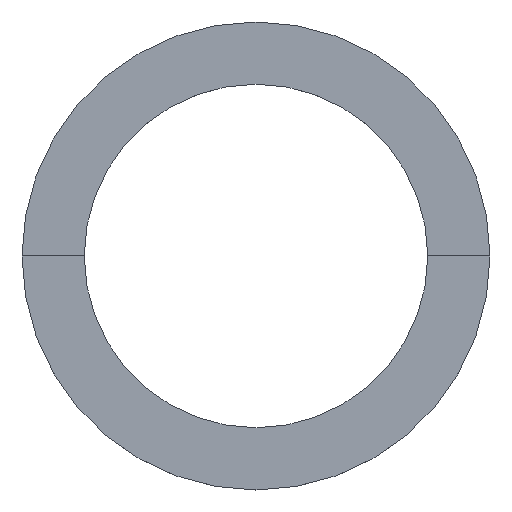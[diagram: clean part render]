
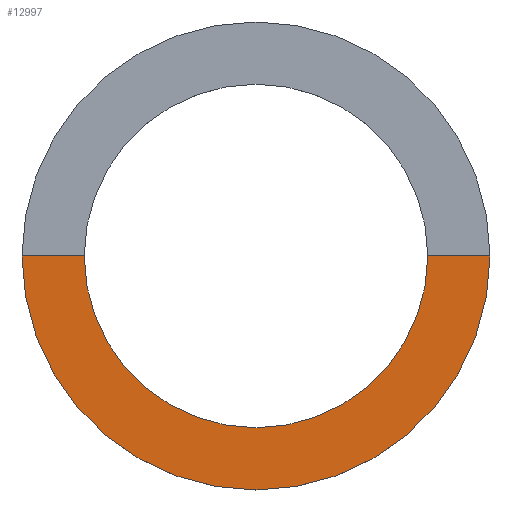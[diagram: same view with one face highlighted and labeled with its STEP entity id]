
A CAD part, top view. The second image highlights one B-rep face of the part: STEP entity #12997.
In plain terms, the highlighted planar face has unit normal (0, 0, 1).
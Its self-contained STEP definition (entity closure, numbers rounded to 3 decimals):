
#5=CARTESIAN_POINT('',(47.0,0.0,27.0));
#6=CARTESIAN_POINT('',(-47.0,0.0,27.0));
#7=CARTESIAN_POINT('',(34.5,0.0,27.0));
#8=CARTESIAN_POINT('',(-34.5,0.0,27.0));
#1636=CARTESIAN_POINT('',(0.0,0.0,27.0));
#1637=DIRECTION('',(0.0,0.0,1.0));
#1638=DIRECTION('',(1.0,0.0,0.0));
#1639=AXIS2_PLACEMENT_3D('',#1636,#1637,#1638);
#1640=CIRCLE('',#1639,47.0);
#1641=TRIMMED_CURVE('',#1640,(#6),(#5),.T.,.CARTESIAN.);
#1642=DIRECTION('',(1.0,0.0,0.0));
#1643=VECTOR('',#1642,1.0);
#1644=LINE('',#6,#1643);
#1651=DIRECTION('',(-1.0,0.0,0.0));
#1652=VECTOR('',#1651,1.0);
#1653=LINE('',#5,#1652);
#1654=CARTESIAN_POINT('',(0.0,0.0,27.0));
#1655=DIRECTION('',(0.0,0.0,1.0));
#1656=DIRECTION('',(1.0,0.0,0.0));
#1657=AXIS2_PLACEMENT_3D('',#1654,#1655,#1656);
#1658=CIRCLE('',#1657,34.5);
#1659=TRIMMED_CURVE('',#1658,(#8),(#7),.T.,.CARTESIAN.);
#3527=CARTESIAN_POINT('',(0.0,0.0,27.0));
#3528=DIRECTION('',(0.0,0.0,1.0));
#3529=DIRECTION('',(1.0,0.0,0.0));
#3530=AXIS2_PLACEMENT_3D('',#3527,#3528,#3529);
#3531=PLANE('',#3530);
#8833=VERTEX_POINT('',#5);
#8834=VERTEX_POINT('',#6);
#8835=VERTEX_POINT('',#7);
#8836=VERTEX_POINT('',#8);
#9789=EDGE_CURVE('',#8834,#8833,#1641,.T.);
#9790=EDGE_CURVE('',#8834,#8836,#1644,.T.);
#9792=EDGE_CURVE('',#8833,#8835,#1653,.T.);
#9793=EDGE_CURVE('',#8836,#8835,#1659,.T.);
#10754=ORIENTED_EDGE('',*,*,#9789,.T.);
#10755=ORIENTED_EDGE('',*,*,#9792,.T.);
#10756=ORIENTED_EDGE('',*,*,#9793,.F.);
#10757=ORIENTED_EDGE('',*,*,#9790,.F.);
#12323=EDGE_LOOP('',(#10754,#10755,#10756,#10757));
#12666=FACE_OUTER_BOUND('',#12323,.T.);
#12997=ADVANCED_FACE('',(#12666),#3531,.T.);
